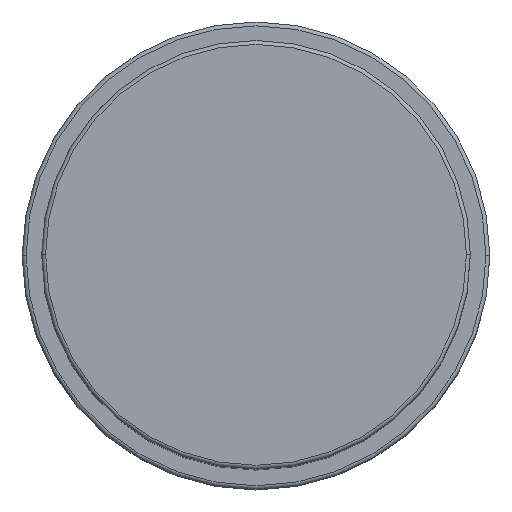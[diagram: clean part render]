
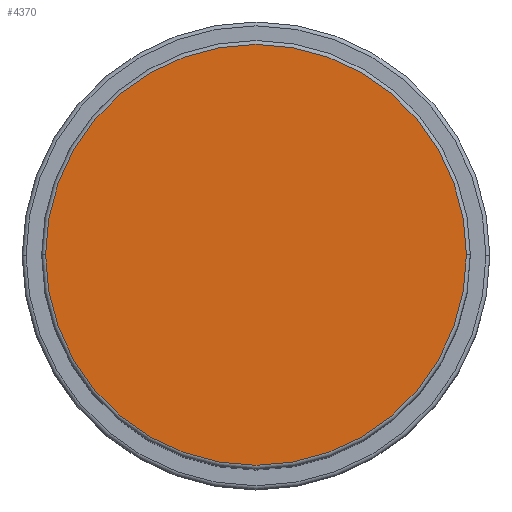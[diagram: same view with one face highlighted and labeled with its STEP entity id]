
A CAD part, top view. The second image highlights one B-rep face of the part: STEP entity #4370.
In plain terms, the highlighted planar face has unit normal (0, 0, 1).
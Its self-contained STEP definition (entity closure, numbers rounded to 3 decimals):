
#271 = DIRECTION ( 'NONE',  ( 1., 0., 0. ) ) ;
#421 = VERTEX_POINT ( 'NONE', #650 ) ;
#650 = CARTESIAN_POINT ( 'NONE',  ( -27., 0., 96. ) ) ;
#1022 = CARTESIAN_POINT ( 'NONE',  ( 0., 0., 96. ) ) ;
#1171 = CARTESIAN_POINT ( 'NONE',  ( 0., 0., 96. ) ) ;
#1190 = DIRECTION ( 'NONE',  ( 0., 0., 1. ) ) ;
#1512 = EDGE_LOOP ( 'NONE', ( #4668, #4841 ) ) ;
#1716 = AXIS2_PLACEMENT_3D ( 'NONE', #1171, #1190, #3812 ) ;
#2532 = VERTEX_POINT ( 'NONE', #3525 ) ;
#2571 = AXIS2_PLACEMENT_3D ( 'NONE', #1022, #3680, #271 ) ;
#2861 = EDGE_CURVE ( 'NONE', #2532, #421, #3521, .T. ) ;
#2877 = DIRECTION ( 'NONE',  ( 1., 0., 0. ) ) ;
#3101 = PLANE ( 'NONE',  #1716 ) ;
#3215 = FACE_OUTER_BOUND ( 'NONE', #1512, .T. ) ;
#3233 = AXIS2_PLACEMENT_3D ( 'NONE', #3666, #4826, #2877 ) ;
#3521 = CIRCLE ( 'NONE', #2571, 27. ) ;
#3525 = CARTESIAN_POINT ( 'NONE',  ( 27., 0., 96. ) ) ;
#3622 = EDGE_CURVE ( 'NONE', #421, #2532, #4110, .T. ) ;
#3666 = CARTESIAN_POINT ( 'NONE',  ( 0., 0., 96. ) ) ;
#3680 = DIRECTION ( 'NONE',  ( 0., 0., 1. ) ) ;
#3812 = DIRECTION ( 'NONE',  ( 1., 0., 0. ) ) ;
#4110 = CIRCLE ( 'NONE', #3233, 27. ) ;
#4370 = ADVANCED_FACE ( 'NONE', ( #3215 ), #3101, .T. ) ;
#4668 = ORIENTED_EDGE ( 'NONE', *, *, #2861, .T. ) ;
#4826 = DIRECTION ( 'NONE',  ( 0., 0., 1. ) ) ;
#4841 = ORIENTED_EDGE ( 'NONE', *, *, #3622, .T. ) ;
